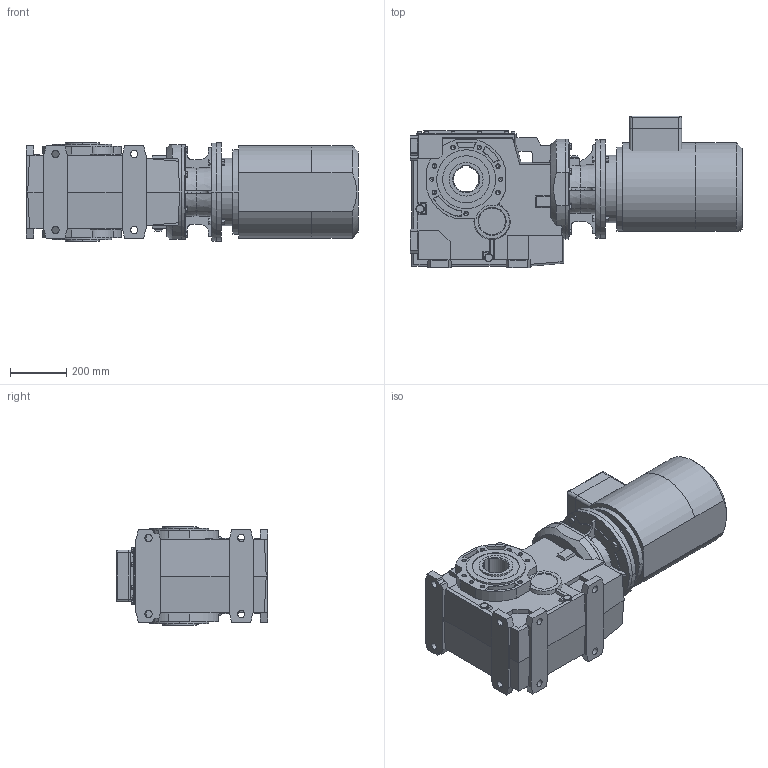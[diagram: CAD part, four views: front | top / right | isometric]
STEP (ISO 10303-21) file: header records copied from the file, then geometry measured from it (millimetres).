
FILE_DESCRIPTION( ( '' ), '1' );
FILE_NAME( '//expscmdclustefs.cadenas.external/client_exchange/iodir/jobs/output/wkb50752155_no0/STEP/B153UC10_49160_B590000000T160M1_2_03.stp', '2012-11-05T02:20:28', ( '' ), ( '' ), ' ', ' ', ' ' );
FILE_SCHEMA( ( 'CONFIG_CONTROL_DESIGN' ) );
Length unit declared in the file: millimetre
Products named in the file (7): 1; 2; 3; 4; 5; 6; 7
Bounding box: 1181.5 x 540 x 350 mm (x, y, z)
Volume: 116746876.9 mm3; surface area: 3481580.5 mm2
Topology: 7 solids, 7 shells, 943 faces, 2438 edges, 1573 vertices
Faces by surface type: plane 576, cylinder 248, cone 116, torus 3
Entity records: 28807 total; most frequent: CARTESIAN_POINT 5297, DIRECTION 4847, ORIENTED_EDGE 4804, EDGE_CURVE 2402, LINE 1625, VECTOR 1625, AXIS2_PLACEMENT_3D 1611, VERTEX_POINT 1573
